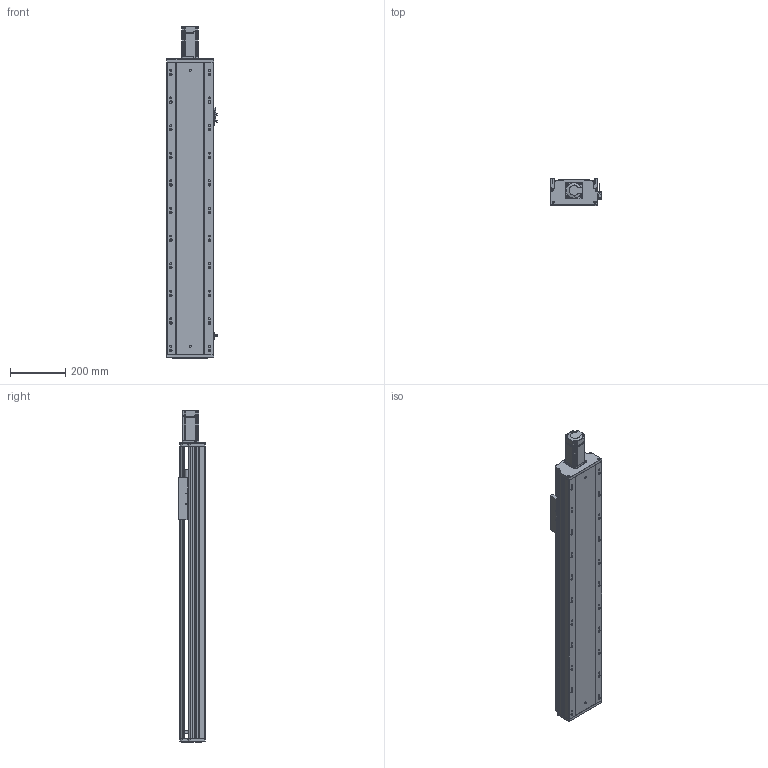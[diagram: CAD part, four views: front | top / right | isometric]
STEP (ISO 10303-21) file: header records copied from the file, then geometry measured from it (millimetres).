
FILE_DESCRIPTION (( 'STEP AP203' ), '1' );
FILE_NAME ('RY170-L2020-300-MK.SLDASM_750.step', '2021-02-20T03:50:58', ( '盈信电脑' ), ( '东莞市道滘镇水果街19号' ), 'SwSTEP 2.0', 'SolidWorks 2012', '' );
FILE_SCHEMA (( 'CONFIG_CONTROL_DESIGN' ));
Length unit declared in the file: millimetre
Products named in the file (12): RY170-L2020-300-MK.SLDASM_750; 滅袉蝶18-10; RY170外置感应片(200共用）; 滅袉蝶18-28; RY170ヶ醱裔啣; 15; RY170綴裔啣; 侂狟400W侜督萇儂; 覜茼ん672; RY170-300倰第裔啣-MK_750; RY170臏賑輸20佪裝蹟譫; RY170-300倰第菁釱-MK_750
Assembly tree (13 placements, depth 3):
  RY170-L2020-300-MK.SLDASM_750
    RY170-300倰第菁釱-MK_750
    RY170-300倰第裔啣-MK_750
    RY170臏賑輸20佪裝蹟譫
    侂狟400W侜督萇儂
      15
    RY170綴裔啣
    覜茼ん672  x3
    RY170外置感应片(200共用）
    RY170ヶ醱裔啣
    滅袉蝶18-28
    滅袉蝶18-10
Bounding box: 183.7 x 97 x 1202.5 mm (x, y, z)
Volume: 5648804.9 mm3; surface area: 1807050.2 mm2
Topology: 12 solids, 12 shells, 2206 faces, 6424 edges, 4154 vertices
Faces by surface type: plane 1166, cylinder 836, cone 175, bspline 29
Entity records: 71565 total; most frequent: CARTESIAN_POINT 16423, ORIENTED_EDGE 11636, DIRECTION 10865, EDGE_CURVE 5818, VERTEX_POINT 3834, VECTOR 3653, LINE 3653, AXIS2_PLACEMENT_3D 3606
